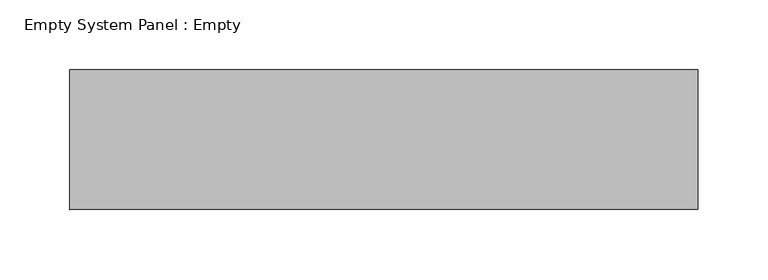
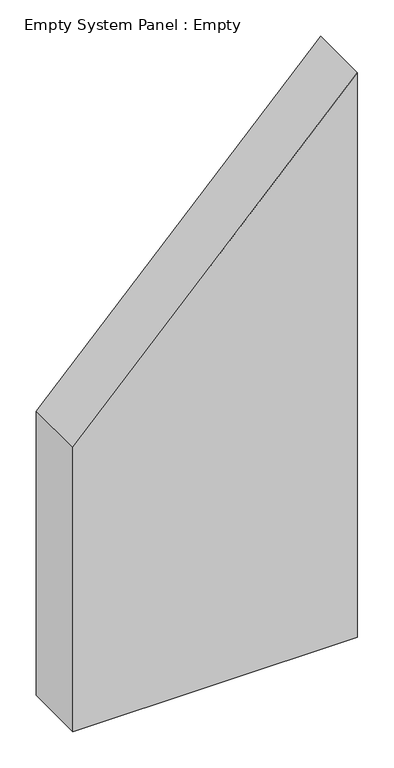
"""IFC4 building model written with IfcOpenShell, lengths in millimetres: plate geometry, Empty System Panel : Empty."""

from ifc_helpers import new_model, si_unit, frame, origin, place, context, project, spatial, polyline, outline, extrude, source, transform, mapped, element, save


def empty_system_panel_empty_328e3ff9(model_context):
    return source(origin(), model_context, "Body", "SweptSolid", [
        extrude(outline(polyline([(0.0, -225.0), (0.0, 225.0), (945.6457233, 225.0), (475.8319305, -225.0), (0.0, -225.0)])), frame((0.0, -50.0, 0.0), z_axis=(0.0, 1.0, 0.0), x_axis=(0.0, 0.0, 1.0)), (0.0, 0.0, 1.0), 100.0),
    ])


if __name__ == "__main__":
    model = new_model("IFC4")
    model_context = context("Model", 3, world=origin())
    ifc_project = project(units=[si_unit("LENGTHUNIT", "METRE", prefix="MILLI")], contexts=[model_context])
    site = spatial("IfcSite", under=ifc_project)
    building = spatial("IfcBuilding", under=site)
    placement = place(None, origin())
    empty_system_panel_empty_shape = empty_system_panel_empty_328e3ff9(model_context)
    element("IfcPlate", 1, ObjectType="Empty System Panel : Empty", at=placement, inside=building, context=model_context, shape_type="MappedRepresentation", body=[
        mapped(empty_system_panel_empty_shape, transform((0.0, 0.0, 0.0), x_axis=(1.0, 0.0, 0.0), y_axis=(0.0, 1.0, 0.0), z_axis=(0.0, 0.0, 1.0))),
    ])
    save(model, "model.ifc")
